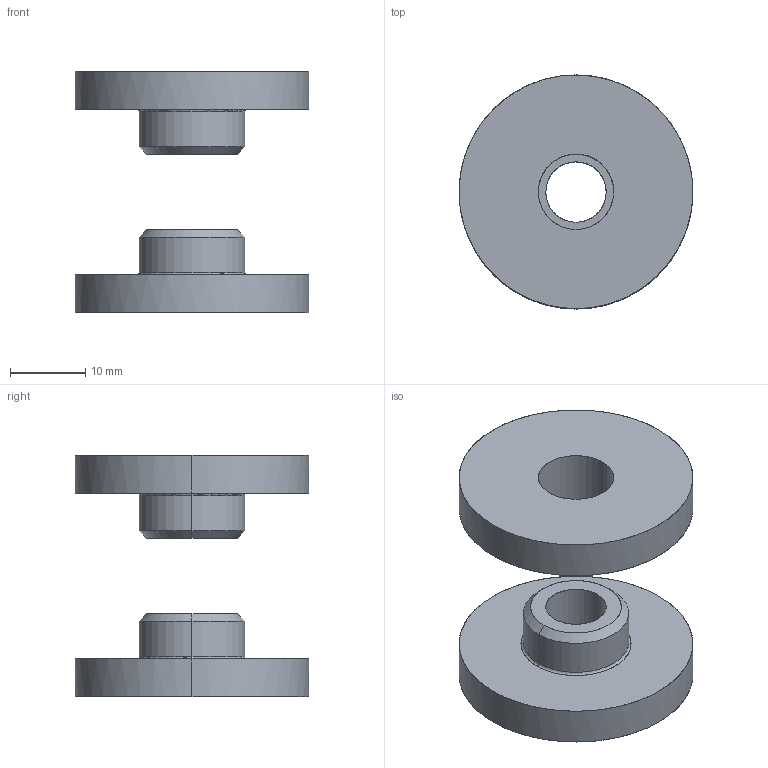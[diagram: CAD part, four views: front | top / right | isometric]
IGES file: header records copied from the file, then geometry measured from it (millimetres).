
Global section: file name: E:\UnigraphicsGraphicData\MISUMI_PRESS-PARTS\IGES\3d_wunt30_00805_r00.igs; native system: NX V5.0; preprocessor: UGS NX IGES V5.0; author: MISUMI; date: 20110105.163520; units: millimetre
Bounding box: 31 x 31 x 32 mm (x, y, z)
Surface area: 4819.2 mm2 (no closed solid volume)
Topology: 0 solids, 0 shells, 26 faces, 208 edges, 208 vertices
Faces by surface type: bspline 26
